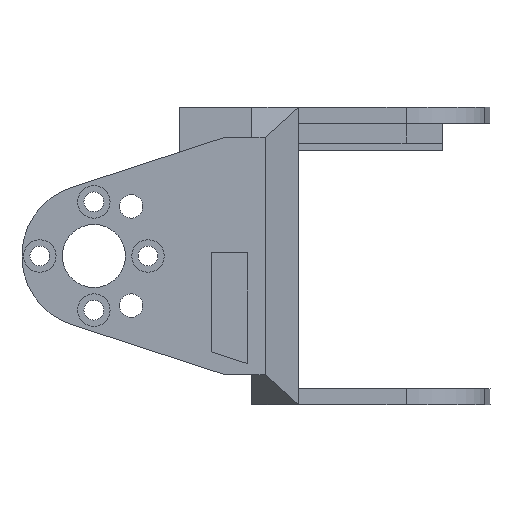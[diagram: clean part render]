
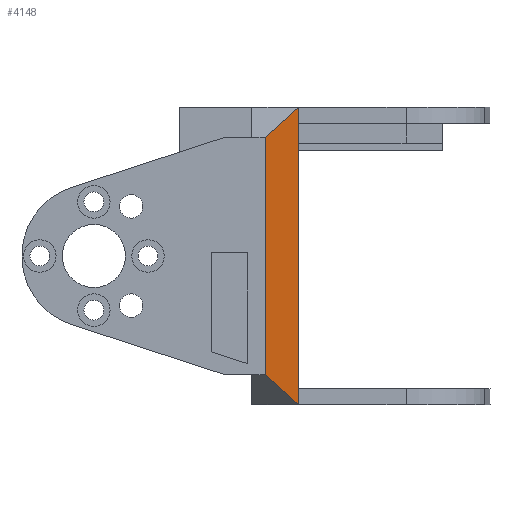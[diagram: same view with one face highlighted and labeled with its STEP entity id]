
A CAD part, front view. The second image highlights one B-rep face of the part: STEP entity #4148.
In plain terms, the highlighted planar face has unit normal (0.83, -0.558, 0) as drawn and (-0.558, 0.83, 0) by its records, which use the part's own axes.
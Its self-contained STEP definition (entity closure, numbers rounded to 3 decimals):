
#67 = DIRECTION ( 'NONE',  ( 0.558, -0.83, 0. ) ) ;
#90 = ORIENTED_EDGE ( 'NONE', *, *, #3064, .F. ) ;
#140 = VERTEX_POINT ( 'NONE', #1296 ) ;
#174 = EDGE_CURVE ( 'NONE', #140, #6475, #5535, .T. ) ;
#560 = EDGE_CURVE ( 'NONE', #3617, #1630, #6412, .T. ) ;
#655 = VERTEX_POINT ( 'NONE', #4121 ) ;
#795 = CARTESIAN_POINT ( 'NONE',  ( -16.928, -6.026, -16.5 ) ) ;
#933 = VECTOR ( 'NONE', #6001, 1000. ) ;
#1097 = EDGE_CURVE ( 'NONE', #140, #3244, #1402, .T. ) ;
#1109 = DIRECTION ( 'NONE',  ( 0., 0., -1. ) ) ;
#1296 = CARTESIAN_POINT ( 'NONE',  ( -11.428, -2.326, -16.5 ) ) ;
#1353 = CARTESIAN_POINT ( 'NONE',  ( -11.428, -2.326, 14.7 ) ) ;
#1402 = LINE ( 'NONE', #3493, #2893 ) ;
#1590 = ORIENTED_EDGE ( 'NONE', *, *, #4675, .T. ) ;
#1630 = VERTEX_POINT ( 'NONE', #3782 ) ;
#1825 = ORIENTED_EDGE ( 'NONE', *, *, #560, .F. ) ;
#1906 = LINE ( 'NONE', #795, #4262 ) ;
#2024 = PLANE ( 'NONE',  #5948 ) ;
#2512 = DIRECTION ( 'NONE',  ( -0.741, -0.498, 0.451 ) ) ;
#2836 = CARTESIAN_POINT ( 'NONE',  ( -11.428, -2.326, 16.5 ) ) ;
#2893 = VECTOR ( 'NONE', #2512, 1000. ) ;
#3064 = EDGE_CURVE ( 'NONE', #6475, #3617, #4818, .T. ) ;
#3130 = ORIENTED_EDGE ( 'NONE', *, *, #174, .F. ) ;
#3235 = DIRECTION ( 'NONE',  ( 0., 0., 1. ) ) ;
#3244 = VERTEX_POINT ( 'NONE', #6479 ) ;
#3300 = VECTOR ( 'NONE', #4810, 1000. ) ;
#3493 = CARTESIAN_POINT ( 'NONE',  ( -15.723, -5.215, -13.886 ) ) ;
#3582 = CARTESIAN_POINT ( 'NONE',  ( -16.928, -6.026, -16.5 ) ) ;
#3617 = VERTEX_POINT ( 'NONE', #1353 ) ;
#3726 = LINE ( 'NONE', #5221, #3300 ) ;
#3782 = CARTESIAN_POINT ( 'NONE',  ( -11.428, -2.326, 16.5 ) ) ;
#4021 = DIRECTION ( 'NONE',  ( 0., 0., 1. ) ) ;
#4121 = CARTESIAN_POINT ( 'NONE',  ( -16.928, -6.026, 13.152 ) ) ;
#4148 = ADVANCED_FACE ( 'NONE', ( #6209 ), #2024, .F. ) ;
#4222 = CARTESIAN_POINT ( 'NONE',  ( -11.428, -2.326, -16.5 ) ) ;
#4262 = VECTOR ( 'NONE', #5940, 1000. ) ;
#4433 = EDGE_CURVE ( 'NONE', #3244, #655, #1906, .T. ) ;
#4652 = ORIENTED_EDGE ( 'NONE', *, *, #1097, .T. ) ;
#4675 = EDGE_CURVE ( 'NONE', #655, #1630, #3726, .T. ) ;
#4810 = DIRECTION ( 'NONE',  ( 0.741, 0.498, 0.451 ) ) ;
#4818 = LINE ( 'NONE', #4222, #6138 ) ;
#5221 = CARTESIAN_POINT ( 'NONE',  ( -14.964, -4.704, 14.347 ) ) ;
#5240 = EDGE_LOOP ( 'NONE', ( #1590, #1825, #90, #3130, #4652, #5398 ) ) ;
#5387 = CARTESIAN_POINT ( 'NONE',  ( -11.428, -2.326, -14.7 ) ) ;
#5398 = ORIENTED_EDGE ( 'NONE', *, *, #4433, .T. ) ;
#5535 = LINE ( 'NONE', #6592, #5685 ) ;
#5685 = VECTOR ( 'NONE', #4021, 1000. ) ;
#5940 = DIRECTION ( 'NONE',  ( 0., 0., 1. ) ) ;
#5948 = AXIS2_PLACEMENT_3D ( 'NONE', #3582, #67, #1109 ) ;
#6001 = DIRECTION ( 'NONE',  ( 0., 0., 1. ) ) ;
#6138 = VECTOR ( 'NONE', #3235, 1000. ) ;
#6209 = FACE_OUTER_BOUND ( 'NONE', #5240, .T. ) ;
#6412 = LINE ( 'NONE', #2836, #933 ) ;
#6475 = VERTEX_POINT ( 'NONE', #5387 ) ;
#6479 = CARTESIAN_POINT ( 'NONE',  ( -16.928, -6.026, -13.152 ) ) ;
#6592 = CARTESIAN_POINT ( 'NONE',  ( -11.428, -2.326, 16.5 ) ) ;
